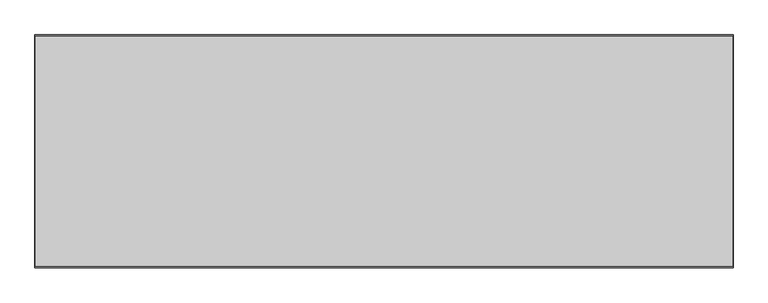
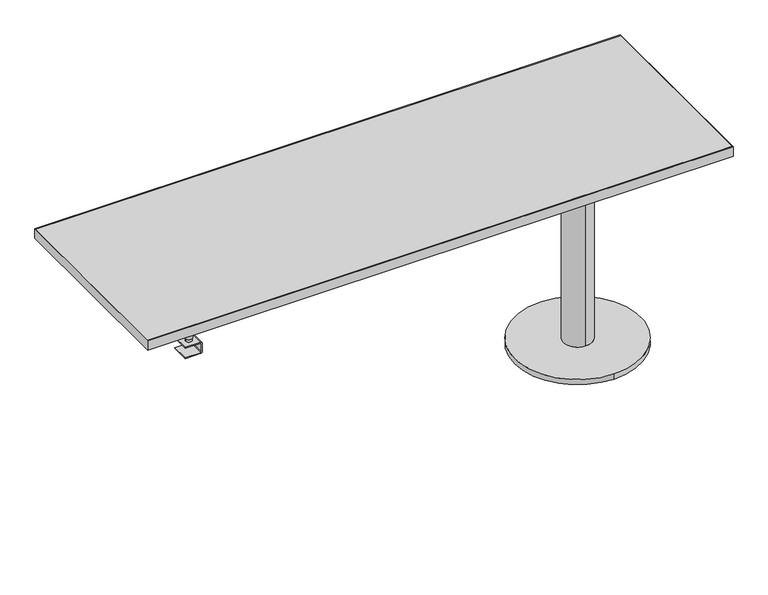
"""IFC4 building model written with IfcOpenShell, lengths in millimetres: furniture geometry, Steelcase Coalesse - Topo - Desktop - Freestanding Straight Ancillary : 72W x 24D - Right - Flat Edge."""

from ifc_helpers import new_model, si_unit, frame, origin, place, context, project, spatial, polyline, circle_curve, outline, extrude, source, transform, mapped, element, save
from ifc_brep_helpers import plane_surface, cylinder_surface, revolved_surface, advanced_brep


def furniture_7b93e401(model_context):
    return source(origin(), model_context, "Body", "SolidModel", [
        advanced_brep(
        [(1519.174, -501.6500363, 16.8148), (1519.174, -107.9500363, 16.8148), (1519.174, -260.3500363, 16.8148), (1519.174, -349.2500363, 16.8148), (1519.174, -501.6500363, 0.0), (1519.174, -107.9500363, 0.0), (1519.174, -349.2500363, 635.0), (1519.174, -260.3500363, 635.0), (1519.174, -269.8509568, 635.0), (1519.174, -339.7491159, 635.0), (1519.174, -339.7491159, 688.975), (1519.174, -269.8509568, 688.975), (1620.7741938, -203.2000242, 692.15), (1417.5738062, -203.2000242, 692.15), (1417.5738062, -406.4000484, 692.15), (1620.7741938, -406.4000484, 692.15), (1620.7741938, -203.2000242, 688.975), (1620.7741938, -406.4000484, 688.975), (1417.5738062, -406.4000484, 688.975), (1417.5738062, -203.2000242, 688.975)],
        [
            (0, 1, circle_curve(frame((1519.174, -304.8000363, 16.8148), z_axis=(0.0, 0.0, 1.0), x_axis=(0.0, 1.0, 0.0)), 196.85)),
            (1, 0, circle_curve(frame((1519.174, -304.8000363, 16.8148), z_axis=(0.0, 0.0, 1.0), x_axis=(0.0, 1.0, 0.0)), 196.85)),
            (2, 3, circle_curve(frame((1519.174, -304.8000363, 16.8148), z_axis=(0.0, 0.0, -1.0), x_axis=(0.0, 1.0, 0.0)), 44.45)),
            (3, 2, circle_curve(frame((1519.174, -304.8000363, 16.8148), z_axis=(0.0, 0.0, -1.0), x_axis=(0.0, 1.0, 0.0)), 44.45)),
            (4, 5, circle_curve(frame((1519.174, -304.8000363, 0.0), z_axis=(0.0, 0.0, -1.0), x_axis=(0.0, 1.0, 0.0)), 196.85)),
            (5, 4, circle_curve(frame((1519.174, -304.8000363, 0.0), z_axis=(0.0, 0.0, -1.0), x_axis=(0.0, 1.0, 0.0)), 196.85)),
            (0, 4),
            (5, 1),
            (6, 7, circle_curve(frame((1519.174, -304.8000363, 635.0), z_axis=(0.0, 0.0, 1.0), x_axis=(0.0, 1.0, 0.0)), 44.45)),
            (7, 6, circle_curve(frame((1519.174, -304.8000363, 635.0), z_axis=(0.0, 0.0, 1.0), x_axis=(0.0, 1.0, 0.0)), 44.45)),
            (8, 9, circle_curve(frame((1519.174, -304.8000363, 635.0), z_axis=(0.0, 0.0, -1.0), x_axis=(0.0, 1.0, 0.0)), 34.9490796)),
            (9, 8, circle_curve(frame((1519.174, -304.8000363, 635.0), z_axis=(0.0, 0.0, -1.0), x_axis=(0.0, 1.0, 0.0)), 34.9490796)),
            (6, 3),
            (2, 7),
            (10, 9),
            (8, 11),
            (11, 10, circle_curve(frame((1519.174, -304.8000363, 688.975), z_axis=(0.0, 0.0, -1.0), x_axis=(0.0, 1.0, 0.0)), 34.9490796)),
            (10, 11, circle_curve(frame((1519.174, -304.8000363, 688.975), z_axis=(0.0, 0.0, -1.0), x_axis=(0.0, 1.0, 0.0)), 34.9490796)),
            (12, 13),
            (13, 14),
            (14, 15),
            (15, 12),
            (16, 17),
            (17, 18),
            (18, 19),
            (19, 16),
            (12, 16),
            (19, 13),
            (18, 14),
            (17, 15),
        ],
        [
            plane_surface(frame((1519.174, -107.9500363, 16.8148), z_axis=(0.0, 0.0, 1.0), x_axis=(-1.0, 0.0, 0.0))),
            plane_surface(frame((1519.174, -107.9500363, 0.0), z_axis=(0.0, 0.0, -1.0), x_axis=(1.0, 0.0, 0.0))),
            cylinder_surface(frame((1519.174, -304.8000363, 0.0), z_axis=(0.0, 0.0, 1.0), x_axis=(0.0, 1.0, 0.0)), 196.85),
            plane_surface(frame((1519.174, -260.3500363, 635.0), z_axis=(0.0, 0.0, 1.0), x_axis=(-1.0, 0.0, 0.0))),
            cylinder_surface(frame((1519.174, -304.8000363, 0.0), z_axis=(0.0, 0.0, 1.0), x_axis=(0.0, 1.0, 0.0)), 44.45),
            cylinder_surface(frame((1519.174, -304.8000363, 635.0), z_axis=(0.0, 0.0, 1.0), x_axis=(0.0, 1.0, 0.0)), 34.9490796),
            plane_surface(frame((1417.5738062, -203.2000242, 692.15), z_axis=(0.0, 0.0, 1.0), x_axis=(-1.0, 0.0, 0.0))),
            plane_surface(frame((1417.5738062, -203.2000242, 688.975), z_axis=(0.0, 0.0, -1.0), x_axis=(1.0, 0.0, 0.0))),
            plane_surface(frame((1620.7741938, -203.2000242, 692.15), z_axis=(0.0, 1.0, 0.0), x_axis=(0.0, 0.0, -1.0))),
            plane_surface(frame((1417.5738062, -203.2000242, 692.15), z_axis=(-1.0, 0.0, 0.0), x_axis=(0.0, 0.0, -1.0))),
            plane_surface(frame((1417.5738062, -406.4000484, 692.15), z_axis=(0.0, -1.0, 0.0), x_axis=(0.0, 0.0, -1.0))),
            plane_surface(frame((1620.7741938, -406.4000484, 692.15), z_axis=(1.0, 0.0, 0.0), x_axis=(0.0, 0.0, -1.0))),
        ],
        [
            (0, [[1, 2], [3, 4]]),
            (1, [[5, 6]]),
            (2, [[-1, 7, -6, 8]]),
            (2, [[-2, -8, -5, -7]]),
            (3, [[9, 10], [11, 12]]),
            (4, [[-9, 13, -3, 14]]),
            (4, [[-10, -14, -4, -13]]),
            (5, [[15, -11, 16, 17]]),
            (5, [[-15, 18, -16, -12]]),
            (6, [[19, 20, 21, 22]]),
            (7, [[23, 24, 25, 26], [-17, -18]]),
            (8, [[-19, 27, -26, 28]]),
            (9, [[-20, -28, -25, 29]]),
            (10, [[-21, -29, -24, 30]]),
            (11, [[-22, -30, -23, -27]]),
        ],
    ),
        extrude(outline(polyline([(1827.783783, -3.1750242), (1827.783783, -606.4250484), (1.016217, -606.4250484), (1.016217, -3.1750242), (1827.783783, -3.1750242)])), frame((0.0, 0.0, 692.15), z_axis=(0.0, 0.0, 1.0), x_axis=(1.0, 0.0, 0.0)), (0.0, 0.0, 1.0), 31.75),
        extrude(outline(polyline([(1828.8, 0.0), (1828.8, -609.6), (0.0, -609.6), (0.0, 0.0), (1828.8, 0.0)]), holes=[polyline([(1827.783783, -3.1750242), (1.016217, -3.1750242), (1.016217, -606.4250484), (1827.783783, -606.4250484), (1827.783783, -3.1750242)])]), frame((0.0, 0.0, 692.15), z_axis=(0.0, 0.0, 1.0), x_axis=(1.0, 0.0, 0.0)), (0.0, 0.0, 1.0), 31.75),
        extrude(outline(polyline([(-109.2200048, 691.1168589), (-127.2794, 691.1168589), (-127.2794, 682.2694), (-171.1706, 682.2694), (-171.1706, 691.1168589), (-189.2300194, 691.1168589), (-189.2300194, 692.15), (-170.18, 692.15), (-170.18, 683.304655), (-128.27, 683.304655), (-128.27, 692.15), (-109.2200048, 692.15), (-109.2200048, 691.1168589)])), frame((57.0738, 0.0, 0.0), z_axis=(1.0, 0.0, 0.0), x_axis=(0.0, 1.0, 0.0)), (0.0, 0.0, 1.0), 1714.6523581),
        extrude(outline(polyline([(-564.8960426, 691.1168589), (-564.8960426, 692.15), (-545.8460475, 692.15), (-545.8460475, 683.304655), (-503.9360475, 683.304655), (-503.9360475, 692.15), (-484.8860281, 692.15), (-484.8860281, 691.1168589), (-502.9454475, 691.1168589), (-502.9454475, 682.2694), (-546.8366475, 682.2694), (-546.8366475, 691.1168589), (-564.8960426, 691.1168589)])), frame((57.0738, 0.0, 0.0), z_axis=(1.0, 0.0, 0.0), x_axis=(0.0, 1.0, 0.0)), (0.0, 0.0, 1.0), 1714.6523581),
        advanced_brep(
        [(171.4500969, -267.5128138, 692.15), (107.9499031, -267.5128138, 692.15), (107.9499031, -331.0127895, 692.15), (171.4500969, -331.0127895, 692.15), (171.4500969, -267.5128138, 688.975), (171.4500969, -331.0127895, 688.975), (107.9499031, -331.0127895, 688.975), (107.9499031, -267.5128138, 688.975), (139.7, -318.3128016, 688.975), (139.7, -280.2128016, 688.975), (139.7, -318.3128016, 655.6248), (139.7, -280.2128016, 655.6248), (139.7, -310.4626736, 655.6248), (139.7, -288.0629297, 655.6248), (139.7, -310.4626736, 621.2586), (139.7, -288.0629297, 621.2586), (139.7, -314.5105403, 621.2586), (139.7, -284.015063, 621.2586), (139.7, -314.5105403, 615.1626), (139.7, -284.015063, 615.1626), (139.7, -311.9628016, 615.1626), (139.7, -286.5628016, 615.1626), (139.7, -311.9628016, 609.4984), (139.7, -286.5628016, 609.4984)],
        [
            (0, 1),
            (1, 2),
            (2, 3),
            (3, 0),
            (4, 5),
            (5, 6),
            (6, 7),
            (7, 4),
            (8, 9, circle_curve(frame((139.7, -299.2628016, 688.975), z_axis=(0.0, 0.0, 1.0), x_axis=(0.0, 1.0, 0.0)), 19.05)),
            (9, 8, circle_curve(frame((139.7, -299.2628016, 688.975), z_axis=(0.0, 0.0, 1.0), x_axis=(0.0, 1.0, 0.0)), 19.05)),
            (0, 4),
            (7, 1),
            (6, 2),
            (5, 3),
            (10, 11, circle_curve(frame((139.7, -299.2628016, 655.6248), z_axis=(0.0, 0.0, -1.0), x_axis=(0.0, 1.0, 0.0)), 19.05)),
            (11, 10, circle_curve(frame((139.7, -299.2628016, 655.6248), z_axis=(0.0, 0.0, -1.0), x_axis=(0.0, 1.0, 0.0)), 19.05)),
            (12, 13, circle_curve(frame((139.7, -299.2628016, 655.6248), z_axis=(0.0, 0.0, 1.0), x_axis=(0.0, 1.0, 0.0)), 11.1998719)),
            (13, 12, circle_curve(frame((139.7, -299.2628016, 655.6248), z_axis=(0.0, 0.0, 1.0), x_axis=(0.0, 1.0, 0.0)), 11.1998719)),
            (11, 9),
            (8, 10),
            (12, 14),
            (14, 15, circle_curve(frame((139.7, -299.2628016, 621.2586), z_axis=(0.0, 0.0, 1.0), x_axis=(0.0, 1.0, 0.0)), 11.1998719)),
            (15, 13),
            (15, 14, circle_curve(frame((139.7, -299.2628016, 621.2586), z_axis=(0.0, 0.0, 1.0), x_axis=(0.0, 1.0, 0.0)), 11.1998719)),
            (16, 17, circle_curve(frame((139.7, -299.2628016, 621.2586), z_axis=(0.0, 0.0, 1.0), x_axis=(0.0, 1.0, 0.0)), 15.2477387)),
            (17, 16, circle_curve(frame((139.7, -299.2628016, 621.2586), z_axis=(0.0, 0.0, 1.0), x_axis=(0.0, 1.0, 0.0)), 15.2477387)),
            (18, 19, circle_curve(frame((139.7, -299.2628016, 615.1626), z_axis=(0.0, 0.0, -1.0), x_axis=(0.0, 1.0, 0.0)), 15.2477387)),
            (19, 18, circle_curve(frame((139.7, -299.2628016, 615.1626), z_axis=(0.0, 0.0, -1.0), x_axis=(0.0, 1.0, 0.0)), 15.2477387)),
            (20, 21, circle_curve(frame((139.7, -299.2628016, 615.1626), z_axis=(0.0, 0.0, 1.0), x_axis=(0.0, 1.0, 0.0)), 12.7)),
            (21, 20, circle_curve(frame((139.7, -299.2628016, 615.1626), z_axis=(0.0, 0.0, 1.0), x_axis=(0.0, 1.0, 0.0)), 12.7)),
            (16, 18),
            (19, 17),
            (22, 23, circle_curve(frame((139.7, -299.2628016, 609.4984), z_axis=(0.0, 0.0, -1.0), x_axis=(0.0, 1.0, 0.0)), 12.7)),
            (23, 22, circle_curve(frame((139.7, -299.2628016, 609.4984), z_axis=(0.0, 0.0, -1.0), x_axis=(0.0, 1.0, 0.0)), 12.7)),
            (23, 21),
            (20, 22),
        ],
        [
            plane_surface(frame((107.9499031, -267.5128138, 692.15), z_axis=(0.0, 0.0, 1.0), x_axis=(-1.0, 0.0, 0.0))),
            plane_surface(frame((107.9499031, -267.5128138, 688.975), z_axis=(0.0, 0.0, -1.0), x_axis=(1.0, 0.0, 0.0))),
            plane_surface(frame((171.4500969, -267.5128138, 692.15), z_axis=(0.0, 1.0, 0.0), x_axis=(0.0, 0.0, -1.0))),
            plane_surface(frame((107.9499031, -267.5128138, 692.15), z_axis=(-1.0, 0.0, 0.0), x_axis=(0.0, 0.0, -1.0))),
            plane_surface(frame((107.9499031, -331.0127895, 692.15), z_axis=(0.0, -1.0, 0.0), x_axis=(0.0, 0.0, -1.0))),
            plane_surface(frame((171.4500969, -331.0127895, 692.15), z_axis=(1.0, 0.0, 0.0), x_axis=(0.0, 0.0, -1.0))),
            plane_surface(frame((139.7, -280.2128016, 655.6248), z_axis=(0.0, 0.0, -1.0), x_axis=(1.0, 0.0, 0.0))),
            cylinder_surface(frame((139.7, -299.2628016, 655.6248), z_axis=(0.0, 0.0, 1.0), x_axis=(0.0, 1.0, 0.0)), 19.05),
            cylinder_surface(frame((139.7, -299.2628016, 621.2586), z_axis=(0.0, 0.0, 1.0), x_axis=(0.0, 1.0, 0.0)), 11.1998719),
            plane_surface(frame((139.7, -284.015063, 621.2586), z_axis=(0.0, 0.0, 1.0), x_axis=(-1.0, 0.0, 0.0))),
            plane_surface(frame((139.7, -284.015063, 615.1626), z_axis=(0.0, 0.0, -1.0), x_axis=(1.0, 0.0, 0.0))),
            cylinder_surface(frame((139.7, -299.2628016, 615.1626), z_axis=(0.0, 0.0, 1.0), x_axis=(0.0, 1.0, 0.0)), 15.2477387),
            plane_surface(frame((139.7, -286.5628016, 609.4984), z_axis=(0.0, 0.0, -1.0), x_axis=(1.0, 0.0, 0.0))),
            cylinder_surface(frame((139.7, -299.2628016, 609.4984), z_axis=(0.0, 0.0, 1.0), x_axis=(0.0, 1.0, 0.0)), 12.7),
        ],
        [
            (0, [[1, 2, 3, 4]]),
            (1, [[5, 6, 7, 8], [9, 10]]),
            (2, [[-1, 11, -8, 12]]),
            (3, [[-2, -12, -7, 13]]),
            (4, [[-3, -13, -6, 14]]),
            (5, [[-4, -14, -5, -11]]),
            (6, [[15, 16], [17, 18]]),
            (7, [[-16, 19, -9, 20]]),
            (7, [[-15, -20, -10, -19]]),
            (8, [[21, 22, 23, -17]]),
            (8, [[-21, -18, -23, 24]]),
            (9, [[25, 26], [-22, -24]]),
            (10, [[27, 28], [29, 30]]),
            (11, [[-25, 31, -28, 32]]),
            (11, [[-26, -32, -27, -31]]),
            (12, [[33, 34]]),
            (13, [[-34, 35, -29, 36]]),
            (13, [[-33, -36, -30, -35]]),
        ],
    ),
        advanced_brep(
        [(200.6639385, -123.825, 612.0384), (205.7439287, -123.825, 606.9584098), (205.7439287, -123.825, 580.2884171), (200.6639117, -123.825, 575.2084), (152.4041613, -123.825, 575.2084), (152.4041613, -123.825, 577.7484), (200.6641613, -123.825, 577.7484), (203.2039675, -123.825, 580.2882062), (203.2039675, -123.825, 606.9584098), (200.6639773, -123.825, 609.4984), (152.4041613, -123.825, 609.4984), (152.4041613, -123.825, 612.0384), (200.6639385, -549.2750484, 612.0384), (152.4041613, -549.2750484, 612.0384), (152.4041613, -549.2750484, 609.4984), (200.6639773, -549.2750484, 609.4984), (203.2039675, -549.2750484, 606.9584098), (203.2039675, -549.2750484, 580.2882062), (200.6641613, -549.2750484, 577.7484), (152.4041613, -549.2750484, 577.7484), (152.4041613, -549.2750484, 575.2084), (200.6639117, -549.2750484, 575.2084), (205.7439287, -549.2750484, 580.2884171), (205.7439287, -549.2750484, 606.9584098), (152.4041613, -493.3950291, 575.2084), (196.8543551, -493.3950291, 575.2084), (196.8543551, -180.7210184, 575.2084), (152.4041613, -180.7210184, 575.2084), (152.4041613, -180.7210184, 577.7484), (152.4041613, -493.3950291, 577.7484), (196.8543551, -180.7210184, 577.7484), (196.8543551, -493.3950291, 577.7484), (152.4041613, -493.3950291, 609.4984), (196.8543551, -493.3950291, 609.4984), (196.8543551, -180.7210184, 609.4984), (152.4041613, -180.7210184, 609.4984), (152.4041613, -180.7210184, 612.0384), (152.4041613, -493.3950291, 612.0384), (196.8543551, -180.7210184, 612.0384), (196.8543551, -493.3950291, 612.0384), (168.1523551, -150.1981097, 612.0384), (187.4563551, -150.1981097, 612.0384), (168.1523551, -523.9179378, 612.0384), (187.4563551, -523.9179378, 612.0384), (146.0537737, -175.6410959, 682.2694), (209.5543551, -175.6410959, 682.2694), (215.9043551, -169.2910959, 682.2694), (215.9043551, -131.1051235, 682.2694), (208.5135646, -124.840999, 682.2694), (147.0945642, -124.840999, 682.2694), (139.7043551, -131.1910475, 682.2694), (139.7043551, -169.2051719, 682.2694), (146.0537737, -498.4749516, 682.2694), (139.7043551, -504.9108755, 682.2694), (139.7043551, -542.925, 682.2694), (147.0945642, -549.2750484, 682.2694), (208.5135646, -549.2750484, 682.2694), (215.9043551, -543.010924, 682.2694), (215.9043551, -504.8249516, 682.2694), (209.5543551, -498.4749516, 682.2694), (146.0537737, -175.6410959, 679.0944), (139.7043551, -169.2051719, 679.0944), (139.7043551, -131.1910475, 679.0944), (147.0945642, -124.840999, 679.0944), (208.5135646, -124.840999, 679.0944), (215.9043551, -131.1051235, 679.0944), (215.9043551, -169.2910959, 679.0944), (209.5543551, -175.6410959, 679.0944), (166.6283551, -150.1981097, 679.0944), (188.9803551, -150.1981097, 679.0944), (146.0537737, -498.4749516, 679.0944), (209.5543551, -498.4749516, 679.0944), (215.9043551, -504.8249516, 679.0944), (215.9043551, -543.010924, 679.0944), (208.5135646, -549.2750484, 679.0944), (147.0945642, -549.2750484, 679.0944), (139.7043551, -542.925, 679.0944), (139.7043551, -504.9108755, 679.0944), (166.6283551, -523.9179378, 679.0944), (188.9803551, -523.9179378, 679.0944), (187.4563551, -150.1981097, 621.2586), (168.1523551, -150.1981097, 621.2586), (187.4563551, -523.9179378, 621.2586), (168.1523551, -523.9179378, 621.2586), (166.6283551, -150.1981097, 621.2586), (188.9803551, -150.1981097, 621.2586), (166.6283551, -523.9179378, 621.2586), (188.9803551, -523.9179378, 621.2586)],
        [
            (0, 1, circle_curve(frame((200.6639385, -123.825, 606.9584098), z_axis=(0.0, 1.0, 0.0), x_axis=(-1.0, 0.0, 0.0)), 5.0799902)),
            (1, 2),
            (2, 3, circle_curve(frame((200.6639117, -123.825, 580.2884171), z_axis=(0.0, 1.0, 0.0), x_axis=(-1.0, 0.0, 0.0)), 5.0800171)),
            (3, 4),
            (4, 5),
            (5, 6),
            (6, 7, circle_curve(frame((200.6641613, -123.825, 580.2882062), z_axis=(0.0, -1.0, 0.0), x_axis=(-1.0, 0.0, 0.0)), 2.5398062)),
            (7, 8),
            (8, 9, circle_curve(frame((200.6639773, -123.825, 606.9584098), z_axis=(0.0, -1.0, 0.0), x_axis=(-1.0, 0.0, 0.0)), 2.5399902)),
            (9, 10),
            (10, 11),
            (11, 0),
            (12, 13),
            (13, 14),
            (14, 15),
            (15, 16, circle_curve(frame((200.6639773, -549.2750484, 606.9584098), z_axis=(0.0, 1.0, 0.0), x_axis=(-1.0, 0.0, 0.0)), 2.5399902)),
            (16, 17),
            (17, 18, circle_curve(frame((200.6641613, -549.2750484, 580.2882062), z_axis=(0.0, 1.0, 0.0), x_axis=(-1.0, 0.0, 0.0)), 2.5398062)),
            (18, 19),
            (19, 20),
            (20, 21),
            (21, 22, circle_curve(frame((200.6639117, -549.2750484, 580.2884171), z_axis=(0.0, -1.0, 0.0), x_axis=(-1.0, 0.0, 0.0)), 5.0800171)),
            (22, 23),
            (23, 12, circle_curve(frame((200.6639385, -549.2750484, 606.9584098), z_axis=(0.0, -1.0, 0.0), x_axis=(-1.0, 0.0, 0.0)), 5.0799902)),
            (0, 12),
            (23, 1),
            (22, 2),
            (21, 3),
            (20, 24),
            (24, 25),
            (25, 26),
            (26, 27),
            (27, 4),
            (27, 28),
            (28, 5),
            (19, 29),
            (29, 24),
            (28, 30),
            (30, 31),
            (31, 29),
            (18, 6),
            (17, 7),
            (16, 8),
            (15, 9),
            (14, 32),
            (32, 33),
            (33, 34),
            (34, 35),
            (35, 10),
            (35, 36),
            (36, 11),
            (13, 37),
            (37, 32),
            (36, 38),
            (38, 39),
            (39, 37),
            (40, 41, circle_curve(frame((177.8043551, -150.1981097, 612.0384), z_axis=(0.0, 0.0, -1.0), x_axis=(-1.0, 0.0, 0.0)), 9.652)),
            (41, 40, circle_curve(frame((177.8043551, -150.1981097, 612.0384), z_axis=(0.0, 0.0, -1.0), x_axis=(-1.0, 0.0, 0.0)), 9.652)),
            (42, 43, circle_curve(frame((177.8043551, -523.9179378, 612.0384), z_axis=(0.0, 0.0, -1.0), x_axis=(-1.0, 0.0, 0.0)), 9.652)),
            (43, 42, circle_curve(frame((177.8043551, -523.9179378, 612.0384), z_axis=(0.0, 0.0, -1.0), x_axis=(-1.0, 0.0, 0.0)), 9.652)),
            (31, 25),
            (39, 33),
            (26, 30),
            (34, 38),
            (44, 45),
            (45, 46, circle_curve(frame((209.5543551, -169.2910959, 682.2694), z_axis=(0.0, 0.0, 1.0), x_axis=(-1.0, 0.0, 0.0)), 6.35)),
            (46, 47),
            (47, 48, circle_curve(frame((209.5543551, -131.1051235, 682.2694), z_axis=(0.0, 0.0, 1.0), x_axis=(-1.0, 0.0, 0.0)), 6.35)),
            (48, 49),
            (49, 50, circle_curve(frame((146.0537737, -131.1051235, 682.2694), z_axis=(0.0, 0.0, 1.0), x_axis=(-1.0, 0.0, 0.0)), 6.35)),
            (50, 51),
            (51, 44, circle_curve(frame((146.0537737, -169.2910959, 682.2694), z_axis=(0.0, 0.0, 1.0), x_axis=(-1.0, 0.0, 0.0)), 6.35)),
            (52, 53, circle_curve(frame((146.0537737, -504.8249516, 682.2694), z_axis=(0.0, 0.0, 1.0), x_axis=(-1.0, 0.0, 0.0)), 6.35)),
            (53, 54),
            (54, 55, circle_curve(frame((146.0537737, -543.010924, 682.2694), z_axis=(0.0, 0.0, 1.0), x_axis=(-1.0, 0.0, 0.0)), 6.35)),
            (55, 56),
            (56, 57, circle_curve(frame((209.5543551, -543.010924, 682.2694), z_axis=(0.0, 0.0, 1.0), x_axis=(-1.0, 0.0, 0.0)), 6.35)),
            (57, 58),
            (58, 59, circle_curve(frame((209.5543551, -504.8249516, 682.2694), z_axis=(0.0, 0.0, 1.0), x_axis=(-1.0, 0.0, 0.0)), 6.35)),
            (59, 52),
            (60, 61, circle_curve(frame((146.0537737, -169.2910959, 679.0944), z_axis=(0.0, 0.0, -1.0), x_axis=(-1.0, 0.0, 0.0)), 6.35)),
            (61, 62),
            (62, 63, circle_curve(frame((146.0537737, -131.1051235, 679.0944), z_axis=(0.0, 0.0, -1.0), x_axis=(-1.0, 0.0, 0.0)), 6.35)),
            (63, 64),
            (64, 65, circle_curve(frame((209.5543551, -131.1051235, 679.0944), z_axis=(0.0, 0.0, -1.0), x_axis=(-1.0, 0.0, 0.0)), 6.35)),
            (65, 66),
            (66, 67, circle_curve(frame((209.5543551, -169.2910959, 679.0944), z_axis=(0.0, 0.0, -1.0), x_axis=(-1.0, 0.0, 0.0)), 6.35)),
            (67, 60),
            (68, 69, circle_curve(frame((177.8043551, -150.1981097, 679.0944), z_axis=(0.0, 0.0, 1.0), x_axis=(-1.0, 0.0, 0.0)), 11.176)),
            (69, 68, circle_curve(frame((177.8043551, -150.1981097, 679.0944), z_axis=(0.0, 0.0, 1.0), x_axis=(-1.0, 0.0, 0.0)), 11.176)),
            (70, 71),
            (71, 72, circle_curve(frame((209.5543551, -504.8249516, 679.0944), z_axis=(0.0, 0.0, -1.0), x_axis=(-1.0, 0.0, 0.0)), 6.35)),
            (72, 73),
            (73, 74, circle_curve(frame((209.5543551, -543.010924, 679.0944), z_axis=(0.0, 0.0, -1.0), x_axis=(-1.0, 0.0, 0.0)), 6.35)),
            (74, 75),
            (75, 76, circle_curve(frame((146.0537737, -543.010924, 679.0944), z_axis=(0.0, 0.0, -1.0), x_axis=(-1.0, 0.0, 0.0)), 6.35)),
            (76, 77),
            (77, 70, circle_curve(frame((146.0537737, -504.8249516, 679.0944), z_axis=(0.0, 0.0, -1.0), x_axis=(-1.0, 0.0, 0.0)), 6.35)),
            (78, 79, circle_curve(frame((177.8043551, -523.9179378, 679.0944), z_axis=(0.0, 0.0, 1.0), x_axis=(-1.0, 0.0, 0.0)), 11.176)),
            (79, 78, circle_curve(frame((177.8043551, -523.9179378, 679.0944), z_axis=(0.0, 0.0, 1.0), x_axis=(-1.0, 0.0, 0.0)), 11.176)),
            (44, 60),
            (67, 45),
            (66, 46),
            (65, 47),
            (64, 48),
            (63, 49),
            (62, 50),
            (61, 51),
            (52, 70),
            (77, 53),
            (76, 54),
            (75, 55),
            (74, 56),
            (73, 57),
            (72, 58),
            (71, 59),
            (80, 41),
            (40, 81),
            (81, 80, circle_curve(frame((177.8043551, -150.1981097, 621.2586), z_axis=(0.0, 0.0, -1.0), x_axis=(-1.0, 0.0, 0.0)), 9.652)),
            (80, 81, circle_curve(frame((177.8043551, -150.1981097, 621.2586), z_axis=(0.0, 0.0, -1.0), x_axis=(-1.0, 0.0, 0.0)), 9.652)),
            (82, 43),
            (42, 83),
            (83, 82, circle_curve(frame((177.8043551, -523.9179378, 621.2586), z_axis=(0.0, 0.0, -1.0), x_axis=(-1.0, 0.0, 0.0)), 9.652)),
            (82, 83, circle_curve(frame((177.8043551, -523.9179378, 621.2586), z_axis=(0.0, 0.0, -1.0), x_axis=(-1.0, 0.0, 0.0)), 9.652)),
            (84, 85, circle_curve(frame((177.8043551, -150.1981097, 621.2586), z_axis=(0.0, 0.0, -1.0), x_axis=(-1.0, 0.0, 0.0)), 11.176)),
            (85, 84, circle_curve(frame((177.8043551, -150.1981097, 621.2586), z_axis=(0.0, 0.0, -1.0), x_axis=(-1.0, 0.0, 0.0)), 11.176)),
            (86, 87, circle_curve(frame((177.8043551, -523.9179378, 621.2586), z_axis=(0.0, 0.0, -1.0), x_axis=(-1.0, 0.0, 0.0)), 11.176)),
            (87, 86, circle_curve(frame((177.8043551, -523.9179378, 621.2586), z_axis=(0.0, 0.0, -1.0), x_axis=(-1.0, 0.0, 0.0)), 11.176)),
            (85, 69),
            (68, 84),
            (87, 79),
            (78, 86),
        ],
        [
            plane_surface(frame((195.5839483, -123.825, 606.9584098), z_axis=(0.0, 1.0, 0.0), x_axis=(0.0, 0.0, 1.0))),
            plane_surface(frame((195.5839483, -549.2750484, 606.9584098), z_axis=(0.0, -1.0, 0.0), x_axis=(0.0, 0.0, -1.0))),
            cylinder_surface(frame((200.6639385, -549.2750484, 606.9584098), z_axis=(0.0, 1.0, 0.0), x_axis=(-1.0, 0.0, 0.0)), 5.0799902),
            plane_surface(frame((205.7439287, -123.825, 606.9584098), z_axis=(1.0, 0.0, 0.0), x_axis=(0.0, -1.0, 0.0))),
            cylinder_surface(frame((200.6639117, -549.2750484, 580.2884171), z_axis=(0.0, 1.0, 0.0), x_axis=(-1.0, 0.0, 0.0)), 5.0800171),
            plane_surface(frame((200.6639117, -123.825, 575.2084), z_axis=(0.0, 0.0, -1.0), x_axis=(0.0, -1.0, 0.0))),
            plane_surface(frame((152.4041613, -123.825, 575.2084), z_axis=(-1.0, 0.0, 0.0), x_axis=(0.0, -1.0, 0.0))),
            plane_surface(frame((152.4041613, -123.825, 577.7484), z_axis=(0.0, 0.0, 1.0), x_axis=(0.0, -1.0, 0.0))),
            revolved_surface(polyline([(198.1243551, -549.2750484, 580.2882062), (198.1243551, -123.82499999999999, 580.2882062)]), (200.6641613, -549.2750484, 580.2882062), (0.0, -1.0, 0.0)),
            plane_surface(frame((203.2039675, -123.825, 580.2882062), z_axis=(-1.0, 0.0, 0.0), x_axis=(0.0, -1.0, 0.0))),
            revolved_surface(polyline([(198.1239871, -549.2750484, 606.9584098), (198.1239871, -123.82499999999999, 606.9584098)]), (200.6639773, -549.2750484, 606.9584098), (0.0, -1.0, 0.0)),
            plane_surface(frame((200.6639773, -123.825, 609.4984), z_axis=(0.0, 0.0, -1.0), x_axis=(0.0, -1.0, 0.0))),
            plane_surface(frame((152.4041613, -123.825, 609.4984), z_axis=(-1.0, 0.0, 0.0), x_axis=(0.0, -1.0, 0.0))),
            plane_surface(frame((152.4041613, -123.825, 612.0384), z_axis=(0.0, 0.0, 1.0), x_axis=(0.0, -1.0, 0.0))),
            plane_surface(frame((196.8543551, -493.3950291, 575.2084), z_axis=(0.0, 1.0, 0.0), x_axis=(0.0, 0.0, 1.0))),
            plane_surface(frame((152.4041613, -180.7210184, 575.2084), z_axis=(0.0, -1.0, 0.0), x_axis=(0.0, 0.0, 1.0))),
            plane_surface(frame((196.8543551, -180.7210184, 575.2084), z_axis=(-1.0, 0.0, 0.0), x_axis=(0.0, 0.0, 1.0))),
            plane_surface(frame((209.5543551, -175.6410959, 682.2694), z_axis=(0.0, 0.0, 1.0), x_axis=(1.0, 0.0, 0.0))),
            plane_surface(frame((209.5543551, -175.6410959, 679.0944), z_axis=(0.0, 0.0, -1.0), x_axis=(-1.0, 0.0, 0.0))),
            plane_surface(frame((146.0537737, -175.6410959, 682.2694), z_axis=(0.0, -1.0, 0.0), x_axis=(0.0, 0.0, -1.0))),
            cylinder_surface(frame((209.5543551, -169.2910959, 679.0944), z_axis=(0.0, 0.0, 1.0), x_axis=(-1.0, 0.0, 0.0)), 6.35),
            plane_surface(frame((215.9043551, -169.2910959, 682.2694), z_axis=(1.0, 0.0, 0.0), x_axis=(0.0, 0.0, -1.0))),
            cylinder_surface(frame((209.5543551, -131.1051235, 679.0944), z_axis=(0.0, 0.0, 1.0), x_axis=(-1.0, 0.0, 0.0)), 6.35),
            plane_surface(frame((208.5135646, -124.840999, 682.2694), z_axis=(0.0, 1.0, 0.0), x_axis=(0.0, 0.0, -1.0))),
            cylinder_surface(frame((146.0537737, -131.1051235, 679.0944), z_axis=(0.0, 0.0, 1.0), x_axis=(-1.0, 0.0, 0.0)), 6.35),
            plane_surface(frame((139.7043551, -131.1910475, 682.2694), z_axis=(-1.0, 0.0, 0.0), x_axis=(0.0, 0.0, -1.0))),
            cylinder_surface(frame((146.0537737, -169.2910959, 679.0944), z_axis=(0.0, 0.0, 1.0), x_axis=(-1.0, 0.0, 0.0)), 6.35),
            cylinder_surface(frame((146.0537737, -504.8249516, 0.0), z_axis=(0.0, 0.0, 1.0), x_axis=(-1.0, 0.0, 0.0)), 6.35),
            plane_surface(frame((139.7043551, -504.9108755, 682.2694), z_axis=(-1.0, 0.0, 0.0), x_axis=(0.0, 0.0, -1.0))),
            cylinder_surface(frame((146.0537737, -543.010924, 0.0), z_axis=(0.0, 0.0, 1.0), x_axis=(-1.0, 0.0, 0.0)), 6.35),
            plane_surface(frame((147.0945642, -549.2750484, 682.2694), z_axis=(0.0, -1.0, 0.0), x_axis=(0.0, 0.0, -1.0))),
            cylinder_surface(frame((209.5543551, -543.010924, 0.0), z_axis=(0.0, 0.0, 1.0), x_axis=(-1.0, 0.0, 0.0)), 6.35),
            plane_surface(frame((215.9043551, -543.010924, 682.2694), z_axis=(1.0, 0.0, 0.0), x_axis=(0.0, 0.0, -1.0))),
            cylinder_surface(frame((209.5543551, -504.8249516, 0.0), z_axis=(0.0, 0.0, 1.0), x_axis=(-1.0, 0.0, 0.0)), 6.35),
            plane_surface(frame((209.5543551, -498.4749516, 682.2694), z_axis=(0.0, 1.0, 0.0), x_axis=(0.0, 0.0, -1.0))),
            cylinder_surface(frame((177.8043551, -150.1981097, 612.0384), z_axis=(0.0, 0.0, 1.0), x_axis=(-1.0, 0.0, 0.0)), 9.652),
            cylinder_surface(frame((177.8043551, -523.9179378, 0.0), z_axis=(0.0, 0.0, 1.0), x_axis=(-1.0, 0.0, 0.0)), 9.652),
            plane_surface(frame((166.6283551, -150.1981097, 621.2586), z_axis=(0.0, 0.0, -1.0), x_axis=(0.0, 1.0, 0.0))),
            cylinder_surface(frame((177.8043551, -150.1981097, 621.2586), z_axis=(0.0, 0.0, 1.0), x_axis=(-1.0, 0.0, 0.0)), 11.176),
            cylinder_surface(frame((177.8043551, -523.9179378, 0.0), z_axis=(0.0, 0.0, 1.0), x_axis=(-1.0, 0.0, 0.0)), 11.176),
        ],
        [
            (0, [[1, 2, 3, 4, 5, 6, 7, 8, 9, 10, 11, 12]]),
            (1, [[13, 14, 15, 16, 17, 18, 19, 20, 21, 22, 23, 24]]),
            (2, [[-1, 25, -24, 26]]),
            (3, [[-2, -26, -23, 27]]),
            (4, [[-3, -27, -22, 28]]),
            (5, [[-4, -28, -21, 29, 30, 31, 32, 33]]),
            (6, [[-5, -33, 34, 35]]),
            (6, [[-20, 36, 37, -29]]),
            (7, [[-6, -35, 38, 39, 40, -36, -19, 41]]),
            (8, [[-7, -41, -18, 42]]),
            (9, [[-8, -42, -17, 43]]),
            (10, [[-9, -43, -16, 44]]),
            (11, [[-10, -44, -15, 45, 46, 47, 48, 49]]),
            (12, [[-11, -49, 50, 51]]),
            (12, [[-14, 52, 53, -45]]),
            (13, [[-12, -51, 54, 55, 56, -52, -13, -25], [57, 58], [59, 60]]),
            (14, [[61, -30, -37, -40]]),
            (14, [[62, -46, -53, -56]]),
            (15, [[63, -38, -34, -32]]),
            (15, [[64, -54, -50, -48]]),
            (16, [[-61, -39, -63, -31]]),
            (16, [[-62, -55, -64, -47]]),
            (17, [[65, 66, 67, 68, 69, 70, 71, 72]]),
            (17, [[73, 74, 75, 76, 77, 78, 79, 80]]),
            (18, [[81, 82, 83, 84, 85, 86, 87, 88], [89, 90]]),
            (18, [[91, 92, 93, 94, 95, 96, 97, 98], [99, 100]]),
            (19, [[-65, 101, -88, 102]]),
            (20, [[-66, -102, -87, 103]]),
            (21, [[-67, -103, -86, 104]]),
            (22, [[-68, -104, -85, 105]]),
            (23, [[-69, -105, -84, 106]]),
            (24, [[-70, -106, -83, 107]]),
            (25, [[-71, -107, -82, 108]]),
            (26, [[-72, -108, -81, -101]]),
            (27, [[-73, 109, -98, 110]]),
            (28, [[-74, -110, -97, 111]]),
            (29, [[-75, -111, -96, 112]]),
            (30, [[-76, -112, -95, 113]]),
            (31, [[-77, -113, -94, 114]]),
            (32, [[-78, -114, -93, 115]]),
            (33, [[-79, -115, -92, 116]]),
            (34, [[-80, -116, -91, -109]]),
            (35, [[117, -57, 118, 119]]),
            (35, [[-117, 120, -118, -58]]),
            (36, [[121, -59, 122, 123]]),
            (36, [[-121, 124, -122, -60]]),
            (37, [[125, 126], [-119, -120]]),
            (37, [[127, 128], [-123, -124]]),
            (38, [[-126, 129, -89, 130]]),
            (38, [[-125, -130, -90, -129]]),
            (39, [[-128, 131, -99, 132]]),
            (39, [[-127, -132, -100, -131]]),
        ],
    ),
    ])


if __name__ == "__main__":
    model = new_model("IFC4")
    model_context = context("Model", 3, world=origin())
    ifc_project = project(units=[si_unit("LENGTHUNIT", "METRE", prefix="MILLI")], contexts=[model_context])
    site = spatial("IfcSite", under=ifc_project)
    building = spatial("IfcBuilding", under=site)
    placement = place(None, origin())
    furniture_shape = furniture_7b93e401(model_context)
    element("IfcFurniture", 1, ObjectType="Steelcase Coalesse - Topo - Desktop - Freestanding Straight Ancillary : 72W x 24D - Right - Flat Edge", at=placement, inside=building, context=model_context, shape_type="MappedRepresentation", body=[
        mapped(furniture_shape, transform((0.0, 0.0, 0.0), x_axis=(1.0, 0.0, 0.0), y_axis=(0.0, 1.0, 0.0), z_axis=(0.0, 0.0, 1.0))),
    ])
    save(model, "model.ifc")
